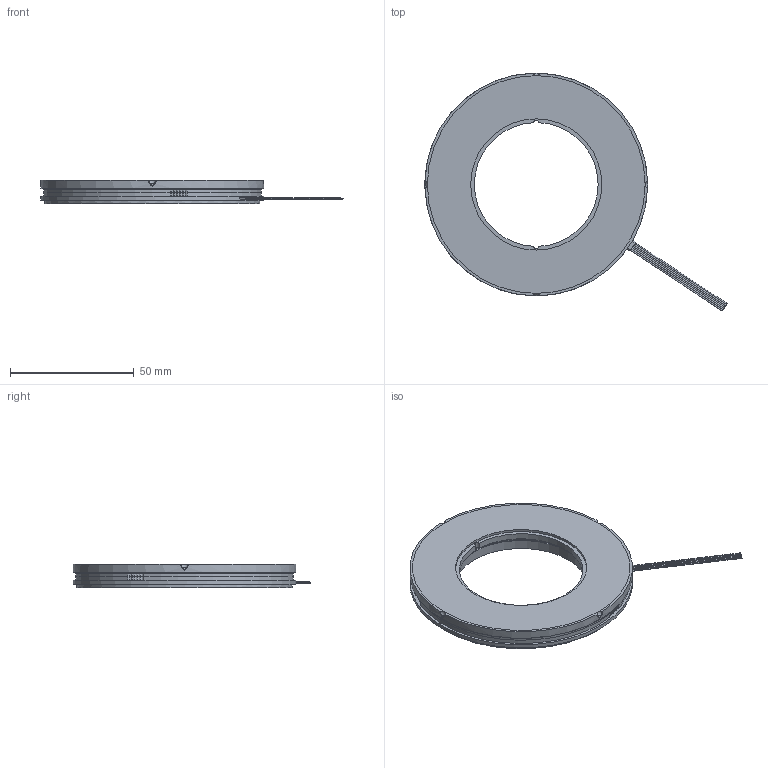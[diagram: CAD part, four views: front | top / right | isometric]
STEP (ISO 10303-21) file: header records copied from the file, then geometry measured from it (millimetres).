
FILE_DESCRIPTION(/* description */ ('Unknown'),/* implementation_level */ '2;1');
FILE_NAME(/* name */ 'A417616',/* time_stamp */ '2019-09-20T08:25:24+02:00',/* author */ ('Unknown'),/* organization */ ('Unknown'),/* preprocessor_version */ 'ST-DEVELOPER v16.7',/* originating_system */ 'DEX',/* authorisation */ $);
FILE_SCHEMA (('AUTOMOTIVE_DESIGN {1 0 10303 214 3 1 1}'));
Length unit declared in the file: millimetre
Products named in the file (20): A417616; 682456; 600000_oa_0; 675868_oa_1; 676362_oa_2; CI_simplifié; Composants; 652168; Fil Alim+; 731370_oa_3; 731369; 731368; Pistes magnétiques moulées; Fil Clk+; Fil Clk-; Fil Data+; Fil Data-; Fil GND; Manchon thermorétractable; Potting
Assembly tree (21 placements, depth 5):
  A417616
    682456
    600000_oa_0
      675868_oa_1
        676362_oa_2
          CI_simplifié
        Composants
    652168  x3
    Fil Alim+
    731370_oa_3
      731369
        731368
      Pistes magnétiques moulées
    Fil Clk+
    Fil Clk-
    Fil Data+
    Fil Data-
    Fil GND
    Manchon thermorétractable
    Potting
Bounding box: 122.12 x 96.05 x 9.5 mm (x, y, z)
Volume: 36097.5 mm3; surface area: 47064.2 mm2
Topology: 16 solids, 16 shells, 276 faces, 669 edges, 438 vertices
Faces by surface type: plane 139, cylinder 91, bspline 28, cone 10, torus 8
Full cylindrical faces by diameter (mm): 0.5 x9, 1.221 x3, 1.6 x3, 1.8 x3, 2.8 x3, 3.5 x6, 53 x1, 53.4 x1, 54.4 x3, 56 x2, 67.83 x1, 87 x1, 88 x2, 90 x1
Entity records: 12185 total; most frequent: CARTESIAN_POINT 5510, DIRECTION 1264, ORIENTED_EDGE 1094, EDGE_CURVE 547, AXIS2_PLACEMENT_3D 499, VERTEX_POINT 393, EDGE_LOOP 378, FACE_BOUND 378
